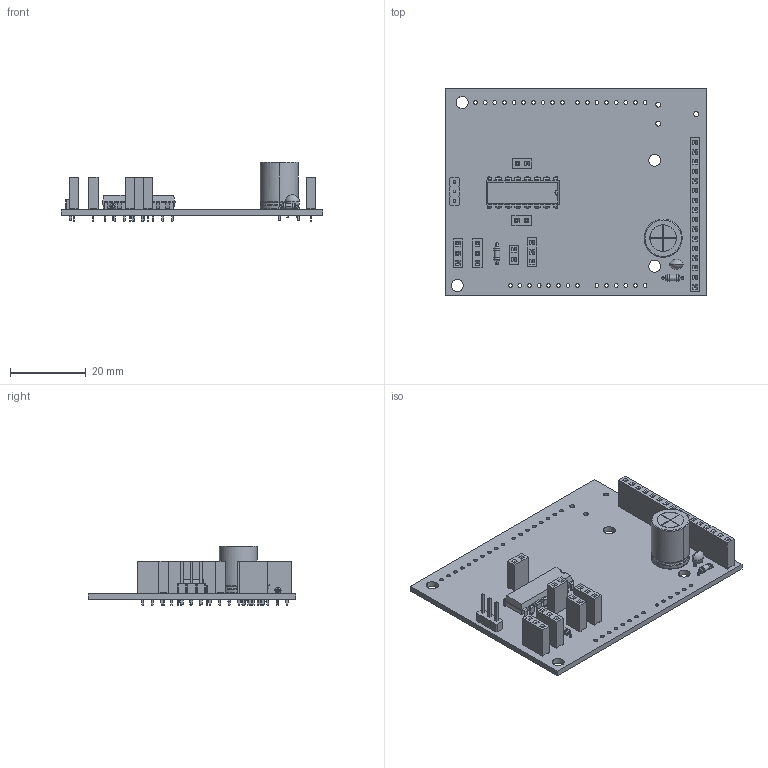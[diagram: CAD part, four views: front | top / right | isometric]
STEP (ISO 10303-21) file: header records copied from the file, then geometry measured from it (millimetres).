
FILE_DESCRIPTION (( 'STEP AP214' ), '1' );
FILE_NAME ('AqueliotrophPCB.STEP', '2026-08-22T12:46:05', ( '' ), ( '' ), 'SwSTEP 2.0', 'SolidWorks 2026', '' );
FILE_SCHEMA (( 'AUTOMOTIVE_DESIGN' ));
Length unit declared in the file: millimetre
Products named in the file (11): DIP-16_W7.62mm.step; C_Disc_D3.8mm_W2.6mm_P2.50mm.step; C_Radial_D10.0mm_H12.5mm_P5.00mm.step; Aqueliotroph_PCB.step; PinSocket_1x03_P2.54mm_Vertical.step; PinSocket_1x02_P2.54mm_Vertical.step; PinHeader_1x03_P2.54mm_Vertical.step; R_Axial_DIN0204_L3.6mm_D1.6mm_P5.08mm_Horizontal.step; AqueliotrophPCB.step; AqueliotrophPCB; PinSocket_1x16_P2.54mm_Vertical.step
Assembly tree (15 placements, depth 3):
  AqueliotrophPCB
    AqueliotrophPCB.step
      PinSocket_1x03_P2.54mm_Vertical.step  x3
      C_Radial_D10.0mm_H12.5mm_P5.00mm.step
      R_Axial_DIN0204_L3.6mm_D1.6mm_P5.08mm_Horizontal.step  x2
      PinSocket_1x02_P2.54mm_Vertical.step  x3
      C_Disc_D3.8mm_W2.6mm_P2.50mm.step
      DIP-16_W7.62mm.step
      PinHeader_1x03_P2.54mm_Vertical.step
      PinSocket_1x16_P2.54mm_Vertical.step
      Aqueliotroph_PCB.step
Bounding box: 68.99 x 54.83 x 15.8 mm (x, y, z)
Volume: 8609.9 mm3; surface area: 12544.6 mm2
Topology: 14 solids, 15 shells, 1543 faces, 4045 edges, 2612 vertices
Faces by surface type: plane 1215, cylinder 266, bspline 40, torus 18, sphere 4
Entity records: 39047 total; most frequent: CARTESIAN_POINT 7882, ORIENTED_EDGE 6446, DIRECTION 6116, EDGE_CURVE 3223, LINE 2628, VECTOR 2628, VERTEX_POINT 2080, AXIS2_PLACEMENT_3D 1744
